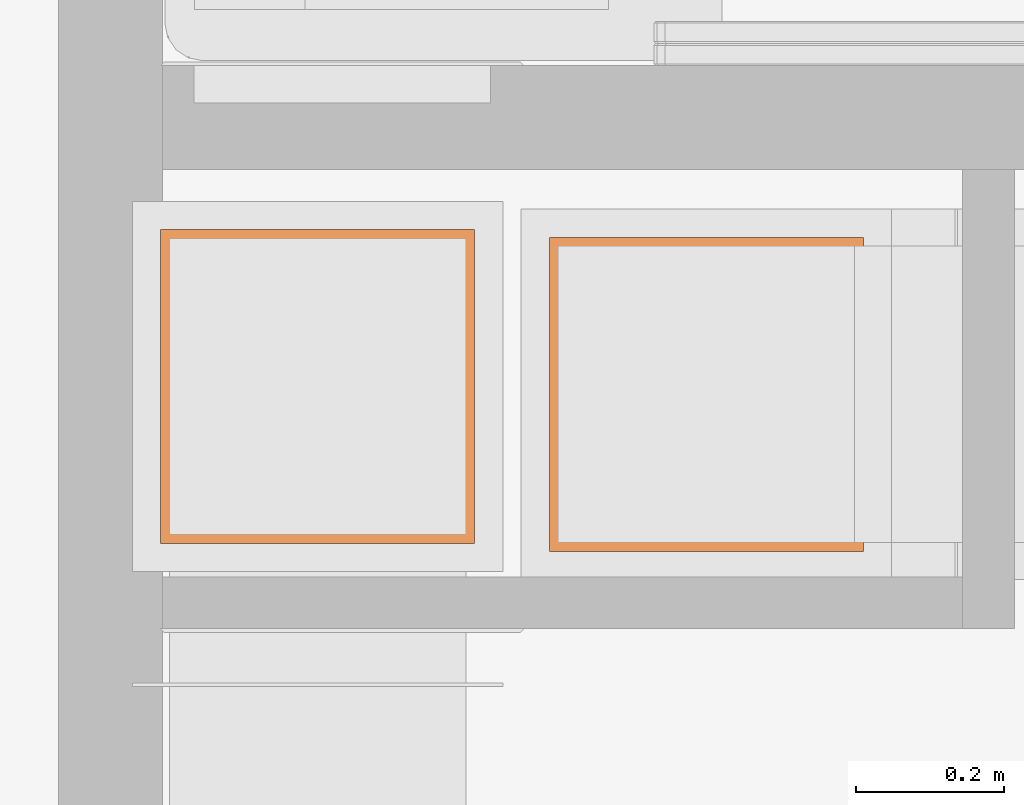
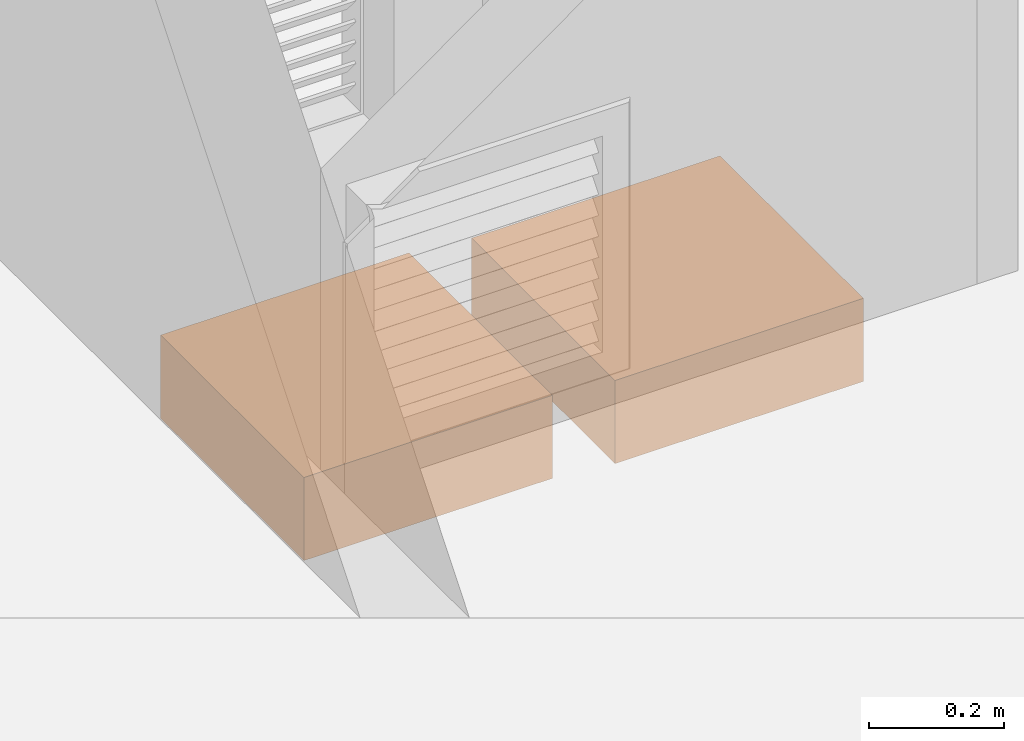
# One storey, part 30 of 31: 2 proxies.
"""IFC2X3 building model written with IfcOpenShell, lengths in millimetres."""

from ifc_helpers import new_model, entity, si_unit, converted_unit, derived_unit, direction, frame, origin, origin_2d_with_axis, place, context, subcontext, project, spatial, rectangle, extrude, source, transform, mapped, material, type_object, type_shapes, element, save


model = new_model("IFC2X3")

# Units and contexts
model_context = context("Model", 3, precision=0.01, world=origin(), true_north=direction((6.123031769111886e-17, 1.0)))
body_context = subcontext(model_context, "Body", "Model", "MODEL_VIEW")
ifc_project = project(units=[si_unit("LENGTHUNIT", "METRE", prefix="MILLI"), si_unit("AREAUNIT", "SQUARE_METRE"), si_unit("VOLUMEUNIT", "CUBIC_METRE"), converted_unit("PLANEANGLEUNIT", "DEGREE", entity("IfcRatioMeasure", 0.017453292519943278), si_unit("PLANEANGLEUNIT", "RADIAN"), dimensions=[0, 0, 0, 0, 0, 0, 0]), si_unit("MASSUNIT", "GRAM", prefix="KILO"), derived_unit("MASSDENSITYUNIT", [(si_unit("MASSUNIT", "GRAM", prefix="KILO"), 1), (si_unit("LENGTHUNIT", "METRE"), -3)]), derived_unit("MOMENTOFINERTIAUNIT", [(si_unit("LENGTHUNIT", "METRE"), 4)]), si_unit("TIMEUNIT", "SECOND"), si_unit("FREQUENCYUNIT", "HERTZ"), si_unit("THERMODYNAMICTEMPERATUREUNIT", "DEGREE_CELSIUS"), derived_unit("THERMALTRANSMITTANCEUNIT", [(si_unit("MASSUNIT", "GRAM", prefix="KILO"), 1), (si_unit("THERMODYNAMICTEMPERATUREUNIT", "KELVIN"), -1), (si_unit("TIMEUNIT", "SECOND"), -3)]), derived_unit("VOLUMETRICFLOWRATEUNIT", [(si_unit("LENGTHUNIT", "METRE"), 3), (si_unit("TIMEUNIT", "SECOND"), -1)]), derived_unit("MASSFLOWRATEUNIT", [(si_unit("MASSUNIT", "GRAM", prefix="KILO"), 1), (si_unit("TIMEUNIT", "SECOND"), -1)]), derived_unit("ROTATIONALFREQUENCYUNIT", [(si_unit("TIMEUNIT", "SECOND"), -1)]), si_unit("ELECTRICCURRENTUNIT", "AMPERE"), si_unit("ELECTRICVOLTAGEUNIT", "VOLT"), si_unit("POWERUNIT", "WATT"), si_unit("FORCEUNIT", "NEWTON", prefix="KILO"), si_unit("ILLUMINANCEUNIT", "LUX"), si_unit("LUMINOUSFLUXUNIT", "LUMEN"), si_unit("LUMINOUSINTENSITYUNIT", "CANDELA"), derived_unit("USERDEFINED", [(si_unit("MASSUNIT", "GRAM", prefix="KILO"), -1), (si_unit("LENGTHUNIT", "METRE"), -2), (si_unit("TIMEUNIT", "SECOND"), 3), (si_unit("LUMINOUSFLUXUNIT", "LUMEN"), 1)]), derived_unit("SOUNDPOWERUNIT", [(si_unit("MASSUNIT", "GRAM", prefix="KILO"), 1), (si_unit("LENGTHUNIT", "METRE"), 2), (si_unit("TIMEUNIT", "SECOND"), -3)]), derived_unit("SOUNDPRESSUREUNIT", [(si_unit("MASSUNIT", "GRAM", prefix="KILO"), 1), (si_unit("LENGTHUNIT", "METRE"), -1), (si_unit("TIMEUNIT", "SECOND"), -2)]), derived_unit("LINEARVELOCITYUNIT", [(si_unit("LENGTHUNIT", "METRE"), 1), (si_unit("TIMEUNIT", "SECOND"), -1)]), si_unit("PRESSUREUNIT", "PASCAL"), derived_unit("USERDEFINED", [(si_unit("LENGTHUNIT", "METRE"), -2), (si_unit("MASSUNIT", "GRAM", prefix="KILO"), 1), (si_unit("TIMEUNIT", "SECOND"), -2)]), derived_unit("LINEARFORCEUNIT", [(si_unit("MASSUNIT", "GRAM", prefix="KILO"), 1), (si_unit("LENGTHUNIT", "METRE"), 1), (si_unit("TIMEUNIT", "SECOND"), -2), (si_unit("LENGTHUNIT", "METRE"), -1)]), derived_unit("PLANARFORCEUNIT", [(si_unit("MASSUNIT", "GRAM", prefix="KILO"), 1), (si_unit("LENGTHUNIT", "METRE"), 1), (si_unit("TIMEUNIT", "SECOND"), -2), (si_unit("LENGTHUNIT", "METRE"), -2)])], contexts=[model_context])

# Site, building, storey
site_placement = place(None, origin())
site = spatial("IfcSite", under=ifc_project, at=site_placement, Name="Default", CompositionType="ELEMENT")
building_placement = place(site_placement, origin())
building = spatial("IfcBuilding", under=site, at=building_placement, CompositionType="ELEMENT")
storey_placement = place(building_placement, frame((0.0, 0.0, 3880.0)))
storey = spatial("IfcBuildingStorey", under=building, at=storey_placement, Name="Niveau 1", CompositionType="ELEMENT", Elevation=3880.0)

# Proxies
ifc_material = material(Name="<Unnamed>")
building_element_proxy_type = type_object("IfcBuildingElementProxyType", Name="Clapet coupe-feu - Rectangulaire - Simple:Standard", PredefinedType="NOTDEFINED", material=ifc_material)
shared_shape = source(origin(), body_context, "Body", "SweptSolid", [
    extrude(rectangle(XDim=150.0, YDim=424.00000000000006, at=origin_2d_with_axis()), frame((0.0, 0.0, -212.0), z_axis=(0.0, 0.0, 1.0), x_axis=(-1.0, 0.0, 0.0)), (0.0, 0.0, 1.0), 424.00000000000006),
])
type_shapes(building_element_proxy_type, [shared_shape])
for number, where, z_axis, x_axis, name in (
    (1, (-5735.742523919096, -14573.552532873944, -117.20491113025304), (1.0, 0.0, 0.0), (0.0, 0.0, 1.0), "Clapet coupe-feu - Rectangulaire - Simple:Standard"),
    (2, (-6260.536558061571, -14562.945337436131, -114.91005354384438), (0.0, -1.0, 0.0), (0.0, 0.0, 1.0), "Clapet coupe-feu - Rectangulaire - Simple:Standard"),
):
    element("IfcBuildingElementProxy", number, at=place(storey_placement, frame(where, z_axis=z_axis, x_axis=x_axis)), inside=storey, type_object=building_element_proxy_type, material=ifc_material, Name=name, ObjectType="Clapet coupe-feu - Rectangulaire - Simple:Standard", context=body_context, shape_type="MappedRepresentation", body=[
        mapped(shared_shape, transform((0.0, 0.0, 0.0), scale=1.0)),
    ])

save(model, "model.ifc")
